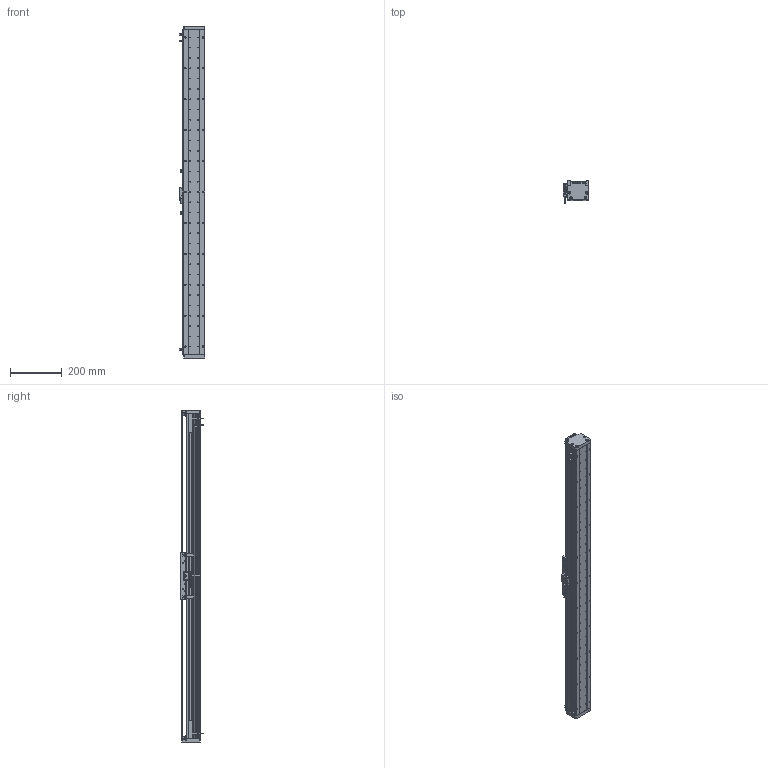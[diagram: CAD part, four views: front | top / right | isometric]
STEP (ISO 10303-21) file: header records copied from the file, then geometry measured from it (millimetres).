
FILE_DESCRIPTION (( 'STEP AP203' ), '1' );
FILE_NAME ('DA-A82-B2-T1040-C010-0.2 眻盄萇儂.STEP', '2025-08-13T03:08:12', ( '' ), ( '' ), 'SwSTEP 2.0', 'SolidWorks 2019', '' );
FILE_SCHEMA (( 'CONFIG_CONTROL_DESIGN' ));
Length unit declared in the file: millimetre
Products named in the file (23): ｸｴｼ BKM02-W040-C1-TP-DA-3.0 ﾖｱﾏﾟｵ扈巐ｯﾗﾓ^DA-A82-B2-T-C010-0.2; 复件 复件 DA82-XJ-00 缓冲橡胶^DA-A82-B2-T-C010-0.2; 复件 复件 复件 DA82 钢带盖板^DA-A82-B2-T-C010-0.2(默认); AU82-M 幗紩賑怢; 葩璃 BKM01-W040-TRL^DA-A82-B2-T-C010-0.2; DA-A60-GYP-DMT-00 光电感应片^DA-A82-B2-T-C010-0.2(默认); 复件 DA95-GT-T-00 底座钢轨^IU-AU82-L 底座导轨; DA-A82-B2-T1040-C010-0.2 眻盄萇儂; IU-AU82-L 菁釱絳寢; 葩璃 葩璃 17517-0000-002-00 傷啣^DA-A82-B2-T-C010-0.2; 复件 复件 17517-0000-004-00  钢带压块^DA-A82-B2-T-C010-0.2(默认); 葩璃 PM-T45^DA-A82-B2-T-C010-0.2; IU-AU82-L-00 菁釱(L1260); 复件 复件 17517-0000-003-00 钢带拉块^DA-A82-B2-T-C010-0.2; AU82-HT-M-00 賑雄怢啣; AU82-M-00 珨极趙賑雄怢啣; 复件 DA95-B2-GT-00 滑块钢轨^AU82-M-00 一体化滑动台板; 葩璃 DMT-010 1米m 0.2M^DA-A82-B2-T-C010-0.2; 葩璃 XD-U-02  棠掑喜^DA-A82-B2-T-C010-0.2; 复件 纯铜油杯 6x6mm^AU82-M 滚珠滑台; 葩璃 DA82-B2-DP-00 結え^AU82-M 幗紩賑怢; 葩璃 DA60-DMT-DTJ-00 黍杅芛盓殤^DA-A82-B2-T-C010-0.2; 葩璃 鞠褒情蹟譫 M3^DA-A82-B2-T-C010-0.2
Assembly tree (40 placements, depth 4):
  DA-A82-B2-T1040-C010-0.2 眻盄萇儂
    IU-AU82-L 菁釱絳寢
      IU-AU82-L-00 菁釱(L1260)
      复件 DA95-GT-T-00 底座钢轨^IU-AU82-L 底座导轨  x2
    AU82-M 幗紩賑怢
      AU82-M-00 珨极趙賑雄怢啣
        AU82-HT-M-00 賑雄怢啣
        复件 DA95-B2-GT-00 滑块钢轨^AU82-M-00 一体化滑动台板  x4
      葩璃 DA82-B2-DP-00 結え^AU82-M 幗紩賑怢  x2
      复件 纯铜油杯 6x6mm^AU82-M 滚珠滑台  x2
    葩璃 DA60-DMT-DTJ-00 黍杅芛盓殤^DA-A82-B2-T-C010-0.2
    葩璃 DMT-010 1米m 0.2M^DA-A82-B2-T-C010-0.2
    DA-A60-GYP-DMT-00 光电感应片^DA-A82-B2-T-C010-0.2(默认)  x2
    ｸｴｼ BKM02-W040-C1-TP-DA-3.0 ﾖｱﾏﾟｵ扈巐ｯﾗﾓ^DA-A82-B2-T-C010-0.2
    复件 复件 17517-0000-003-00 钢带拉块^DA-A82-B2-T-C010-0.2  x2
    复件 复件 DA82-XJ-00 缓冲橡胶^DA-A82-B2-T-C010-0.2  x2
    复件 复件 17517-0000-004-00  钢带压块^DA-A82-B2-T-C010-0.2(默认)  x2
    葩璃 葩璃 17517-0000-002-00 傷啣^DA-A82-B2-T-C010-0.2  x2
    复件 复件 复件 DA82 钢带盖板^DA-A82-B2-T-C010-0.2(默认)
    葩璃 BKM01-W040-TRL^DA-A82-B2-T-C010-0.2
    葩璃 PM-T45^DA-A82-B2-T-C010-0.2  x3
    葩璃 XD-U-02  棠掑喜^DA-A82-B2-T-C010-0.2
    葩璃 鞠褒情蹟譫 M3^DA-A82-B2-T-C010-0.2  x6
Bounding box: 98.95 x 87.2 x 1288 mm (x, y, z)
Volume: 3826963.6 mm3; surface area: 1155713.5 mm2
Topology: 44 solids, 68 shells, 2263 faces, 5936 edges, 3730 vertices
Faces by surface type: cylinder 1073, plane 900, cone 272, bspline 8, torus 8, sphere 2
Entity records: 60945 total; most frequent: CARTESIAN_POINT 13527, DIRECTION 9559, ORIENTED_EDGE 8976, EDGE_CURVE 4488, AXIS2_PLACEMENT_3D 3637, VERTEX_POINT 2914, LINE 2285, VECTOR 2285
